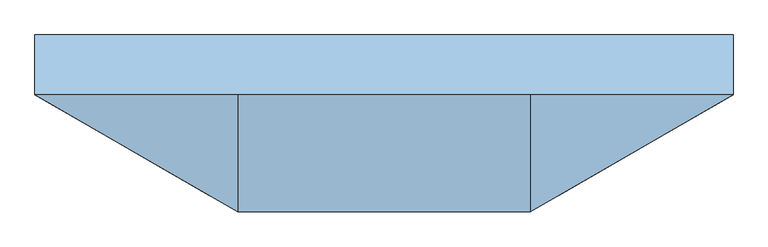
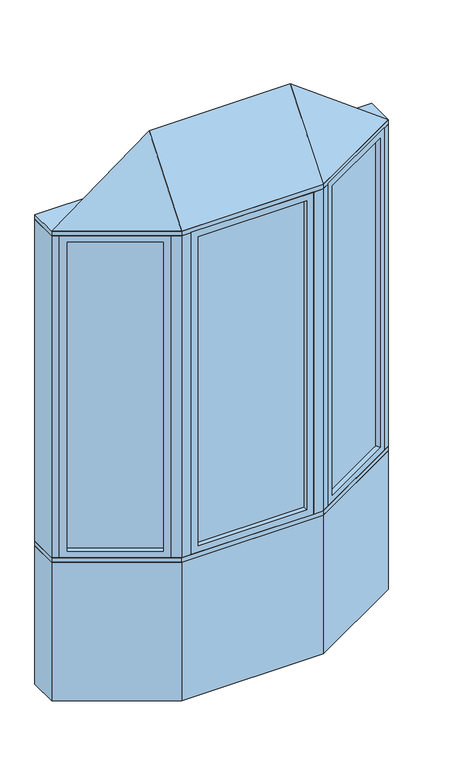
"""IFC4 building model written with IfcOpenShell, lengths in millimetres: window geometry, Pollard_Windows_Tudor Casement Bows and Bays : AML-BAY 30 AFR0518-08-500."""

from ifc_helpers import new_model, si_unit, frame, origin, origin_with_axes, place, context, project, spatial, polyline, outline, extrude, faceted_brep, source, transform, mapped, element, save


def window_7cd55e26(model_context):
    return source(origin(), model_context, "Body", "SolidModel", [
        extrude(outline(polyline([(826.612102, -82.0482469), (423.7320119, -314.6511754), (421.1920119, -310.2517664), (824.072102, -77.6488379), (826.612102, -82.0482469)])), frame((0.0, 0.0, 823.1628), z_axis=(0.0, 0.0, 1.0), x_axis=(1.0, 0.0, 0.0)), (0.0, 0.0, 1.0), 1753.6704),
        faceted_brep([(815.6135794, -88.3982469, 835.8628), (828.3135794, -110.3952922, 835.8628), (828.3135794, -110.3952922, 2564.1332), (815.6135794, -88.3982469, 2564.1332), (824.072102, -77.6488379, 823.1628), (826.612102, -82.0482469, 823.1628), (826.612102, -82.0482469, 2576.8332), (824.072102, -77.6488379, 2576.8332), (800.3735794, -62.0017926, 835.8628), (813.0735794, -83.9988379, 835.8628), (813.0735794, -83.9988379, 2564.1332), (800.3735794, -62.0017926, 2564.1332), (859.3734073, -92.4628922, 799.998), (831.4334073, -44.0693926, 799.998), (831.4334073, -44.0693926, 2599.998), (859.3734073, -92.4628922, 2599.998), (447.4305346, -330.2982207, 2564.1332), (434.7305346, -308.3011754, 2564.1332), (423.7320119, -314.6511754, 2576.8332), (421.1920119, -310.2517664, 2576.8332), (432.1905346, -303.9017664, 2564.1332), (419.4905346, -281.9047211, 2564.1332), (388.4307067, -299.8371211, 2599.998), (416.3707067, -348.2306207, 2599.998), (447.4305346, -330.2982207, 835.8628), (434.7305346, -308.3011754, 835.8628), (423.7320119, -314.6511754, 823.1628), (421.1920119, -310.2517664, 823.1628), (432.1905346, -303.9017664, 835.8628), (419.4905346, -281.9047211, 835.8628), (388.4307067, -299.8371211, 799.998), (416.3707067, -348.2306207, 799.998)], [[[0, 1, 2, 3]], [[4, 5, 6, 7]], [[8, 9, 10, 11]], [[12, 13, 14, 15]], [[3, 2, 16, 17]], [[7, 6, 18, 19]], [[11, 10, 20, 21]], [[15, 14, 22, 23]], [[17, 16, 24, 25]], [[19, 18, 26, 27]], [[21, 20, 28, 29]], [[23, 22, 30, 31]], [[25, 24, 1, 0]], [[5, 26, 18, 6], [3, 17, 25, 0]], [[27, 26, 5, 4]], [[7, 19, 27, 4], [9, 28, 20, 10]], [[29, 28, 9, 8]], [[13, 30, 22, 14], [11, 21, 29, 8]], [[31, 30, 13, 12]], [[15, 23, 31, 12], [1, 24, 16, 2]]]),
        extrude(outline(polyline([(-423.7320119, -314.6511754), (-826.612102, -82.0482469), (-824.072102, -77.6488379), (-421.1920119, -310.2517664), (-423.7320119, -314.6511754)])), frame((0.0, 0.0, 823.1628), z_axis=(0.0, 0.0, 1.0), x_axis=(1.0, 0.0, 0.0)), (0.0, 0.0, 1.0), 1753.6704),
        faceted_brep([(-432.1905346, -303.9017664, 2564.1332), (-419.4905346, -281.9047211, 2564.1332), (-419.4905346, -281.9047211, 835.8628), (-432.1905346, -303.9017664, 835.8628), (-423.7320119, -314.6511754, 2576.8332), (-421.1920119, -310.2517664, 2576.8332), (-421.1920119, -310.2517664, 823.1628), (-423.7320119, -314.6511754, 823.1628), (-447.4305346, -330.2982207, 2564.1332), (-434.7305346, -308.3011754, 2564.1332), (-434.7305346, -308.3011754, 835.8628), (-447.4305346, -330.2982207, 835.8628), (-388.4307067, -299.8371211, 2599.998), (-416.3707067, -348.2306207, 2599.998), (-416.3707067, -348.2306207, 799.998), (-388.4307067, -299.8371211, 799.998), (-800.3735794, -62.0017926, 835.8628), (-813.0735794, -83.9988379, 835.8628), (-824.072102, -77.6488379, 823.1628), (-826.612102, -82.0482469, 823.1628), (-815.6135794, -88.3982469, 835.8628), (-828.3135794, -110.3952922, 835.8628), (-859.3734073, -92.4628922, 799.998), (-831.4334073, -44.0693926, 799.998), (-800.3735794, -62.0017926, 2564.1332), (-813.0735794, -83.9988379, 2564.1332), (-824.072102, -77.6488379, 2576.8332), (-826.612102, -82.0482469, 2576.8332), (-815.6135794, -88.3982469, 2564.1332), (-828.3135794, -110.3952922, 2564.1332), (-859.3734073, -92.4628922, 2599.998), (-831.4334073, -44.0693926, 2599.998)], [[[0, 1, 2, 3]], [[4, 5, 6, 7]], [[8, 9, 10, 11]], [[12, 13, 14, 15]], [[3, 2, 16, 17]], [[7, 6, 18, 19]], [[11, 10, 20, 21]], [[15, 14, 22, 23]], [[17, 16, 24, 25]], [[19, 18, 26, 27]], [[21, 20, 28, 29]], [[23, 22, 30, 31]], [[15, 23, 31, 12], [1, 24, 16, 2]], [[25, 24, 1, 0]], [[5, 26, 18, 6], [3, 17, 25, 0]], [[27, 26, 5, 4]], [[7, 19, 27, 4], [9, 28, 20, 10]], [[29, 28, 9, 8]], [[13, 30, 22, 14], [11, 21, 29, 8]], [[31, 30, 13, 12]]]),
        extrude(outline(polyline([(299.9046365, -347.8306207), (-299.9046365, -347.8306207), (-299.9046365, -342.7506207), (299.9046365, -342.7506207), (299.9046365, -347.8306207)])), frame((0.0, 0.0, 823.1628), z_axis=(0.0, 0.0, 1.0), x_axis=(1.0, 0.0, 0.0)), (0.0, 0.0, 1.0), 1753.6704),
        faceted_brep([(287.2046365, -347.8306207, 835.8628), (287.2046365, -373.2306207, 835.8628), (287.2046365, -373.2306207, 2564.1332), (287.2046365, -347.8306207, 2564.1332), (299.9046365, -342.7506207, 823.1628), (299.9046365, -347.8306207, 823.1628), (299.9046365, -347.8306207, 2576.8332), (299.9046365, -342.7506207, 2576.8332), (287.2046365, -317.3506207, 835.8628), (287.2046365, -342.7506207, 835.8628), (287.2046365, -342.7506207, 2564.1332), (287.2046365, -317.3506207, 2564.1332), (323.0694365, -373.2306207, 799.998), (323.0694365, -317.3506207, 799.998), (323.0694365, -317.3506207, 2599.998), (323.0694365, -373.2306207, 2599.998), (-287.2046365, -373.2306207, 2564.1332), (-287.2046365, -347.8306207, 2564.1332), (-299.9046365, -347.8306207, 2576.8332), (-299.9046365, -342.7506207, 2576.8332), (-287.2046365, -342.7506207, 2564.1332), (-287.2046365, -317.3506207, 2564.1332), (-323.0694365, -317.3506207, 2599.998), (-323.0694365, -373.2306207, 2599.998), (-287.2046365, -373.2306207, 835.8628), (-287.2046365, -347.8306207, 835.8628), (-299.9046365, -347.8306207, 823.1628), (-299.9046365, -342.7506207, 823.1628), (-287.2046365, -342.7506207, 835.8628), (-287.2046365, -317.3506207, 835.8628), (-323.0694365, -317.3506207, 799.998), (-323.0694365, -373.2306207, 799.998)], [[[0, 1, 2, 3]], [[4, 5, 6, 7]], [[8, 9, 10, 11]], [[12, 13, 14, 15]], [[3, 2, 16, 17]], [[7, 6, 18, 19]], [[11, 10, 20, 21]], [[15, 14, 22, 23]], [[17, 16, 24, 25]], [[19, 18, 26, 27]], [[21, 20, 28, 29]], [[23, 22, 30, 31]], [[15, 23, 31, 12], [1, 24, 16, 2]], [[25, 24, 1, 0]], [[5, 26, 18, 6], [3, 17, 25, 0]], [[27, 26, 5, 4]], [[7, 19, 27, 4], [9, 28, 20, 10]], [[29, 28, 9, 8]], [[13, 30, 22, 14], [11, 21, 29, 8]], [[31, 30, 13, 12]]]),
        faceted_brep([(890.0, -74.7806207, 2625.398), (373.0694365, -373.2306207, 2625.398), (-373.0694365, -373.2306207, 2625.398), (-890.0, -74.7806207, 2625.398), (-373.0694365, -74.7806207, 3006.398), (373.0694365, -74.7806207, 3006.398)], [[[0, 1, 2, 3]], [[3, 2, 4]], [[2, 1, 5, 4]], [[1, 0, 5]], [[0, 3, 4, 5]]]),
        extrude(outline(polyline([(-890.0, 77.6193793), (890.0, 77.6193793), (890.0, -74.7806207), (373.0694365, -373.2306207), (-373.0694365, -373.2306207), (-890.0, -74.7806207), (-890.0, 77.6193793)])), frame((0.0, 0.0, 2599.998), z_axis=(0.0, 0.0, 1.0), x_axis=(1.0, 0.0, 0.0)), (0.0, 0.0, 1.0), 25.4),
        extrude(outline(polyline([(-890.0, -74.7806207), (-890.0, 77.6193793), (-849.1645431, 77.6193793), (-849.1645431, -74.7806207), (-859.3734073, -92.4628922), (-890.0, -74.7806207)])), frame((0.0, 0.0, 799.998), z_axis=(0.0, 0.0, 1.0), x_axis=(1.0, 0.0, 0.0)), (0.0, 0.0, 1.0), 1800.0),
        extrude(outline(polyline([(890.0, 77.6193793), (890.0, -74.7806207), (859.3734073, -92.4628922), (849.1645431, -74.7806207), (849.1645431, 77.6193793), (890.0, 77.6193793)])), frame((0.0, 0.0, 799.998), z_axis=(0.0, 0.0, 1.0), x_axis=(1.0, 0.0, 0.0)), (0.0, 0.0, 1.0), 1800.0),
        extrude(outline(polyline([(373.0694365, -373.2306207), (323.0694365, -373.2306207), (323.0694365, -323.2306207), (359.6719769, -323.2306207), (391.3707067, -304.9293505), (416.3707067, -348.2306207), (373.0694365, -373.2306207)])), frame((0.0, 0.0, 799.998), z_axis=(0.0, 0.0, 1.0), x_axis=(1.0, 0.0, 0.0)), (0.0, 0.0, 1.0), 1800.0),
        extrude(outline(polyline([(-373.0694365, -373.2306207), (-416.3707067, -348.2306207), (-391.3707067, -304.9293505), (-359.6719769, -323.2306207), (-323.0694365, -323.2306207), (-323.0694365, -373.2306207), (-373.0694365, -373.2306207)])), frame((0.0, 0.0, 799.998), z_axis=(0.0, 0.0, 1.0), x_axis=(1.0, 0.0, 0.0)), (0.0, 0.0, 1.0), 1800.0),
        extrude(outline(polyline([(-373.0694365, -373.2306207), (-890.0, -74.7806207), (-890.0, 77.6193793), (-849.1645431, 77.6193793), (-332.2339796, -220.8306207), (332.2339796, -220.8306207), (849.1645431, 77.6193793), (890.0, 77.6193793), (890.0, -74.7806207), (373.0694365, -373.2306207), (-373.0694365, -373.2306207)])), frame((0.0, 0.0, 774.598), z_axis=(0.0, 0.0, 1.0), x_axis=(1.0, 0.0, 0.0)), (0.0, 0.0, 1.0), 25.4),
        extrude(outline(polyline([(-890.0, -74.7806207), (-890.0, 77.6193793), (-849.1645431, 77.6193793), (-332.2339796, -220.8306207), (332.2339796, -220.8306207), (849.1645431, 77.6193793), (890.0, 77.6193793), (890.0, -74.7806207), (373.0694365, -373.2306207), (-373.0694365, -373.2306207), (-890.0, -74.7806207)])), origin_with_axes(), (0.0, 0.0, 1.0), 774.598),
    ])


if __name__ == "__main__":
    model = new_model("IFC4")
    model_context = context("Model", 3, world=origin())
    ifc_project = project(units=[si_unit("LENGTHUNIT", "METRE", prefix="MILLI")], contexts=[model_context])
    site = spatial("IfcSite", under=ifc_project)
    building = spatial("IfcBuilding", under=site)
    placement = place(None, origin())
    window_shape = window_7cd55e26(model_context)
    element("IfcWindow", 1, ObjectType="Pollard_Windows_Tudor Casement Bows and Bays : AML-BAY 30 AFR0518-08-500", at=placement, inside=building, context=model_context, shape_type="MappedRepresentation", body=[
        mapped(window_shape, transform((0.0, 0.0, 0.0), x_axis=(1.0, 0.0, 0.0), y_axis=(0.0, 1.0, 0.0), z_axis=(0.0, 0.0, 1.0))),
    ])
    save(model, "model.ifc")
